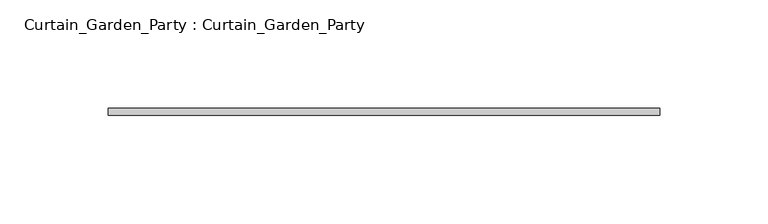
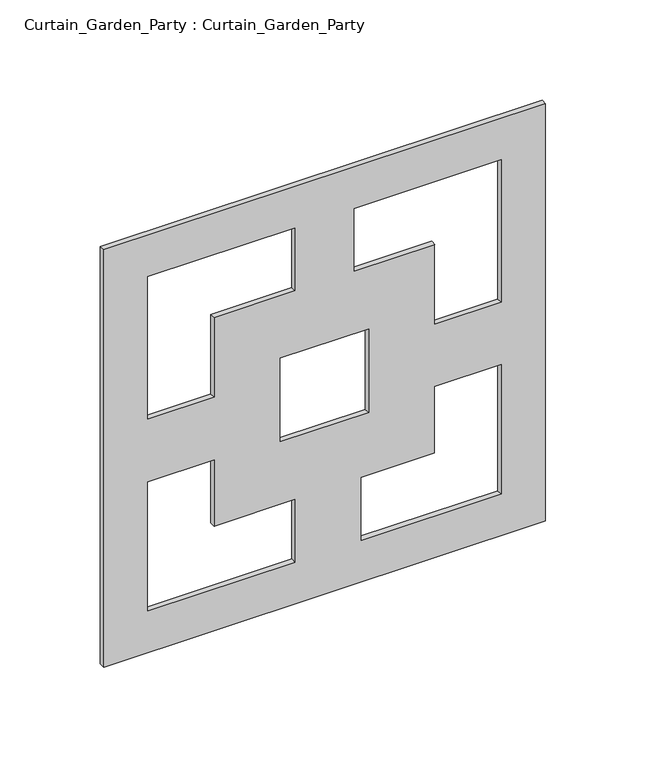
"""IFC4 building model written with IfcOpenShell, lengths in millimetres: plate geometry, Curtain_Garden_Party : Curtain_Garden_Party."""

import ifcopenshell
import ifcopenshell.guid

model = None  # the IFC model being written
_history = None  # IfcOwnerHistory: only IFC2X3 demands one
_inside = {}  # id of a spatial element -> (the spatial element, [elements in it])
_under = {}  # id of a project, library or spatial element -> (it, [spatial elements below it])
_declared = {}  # id of a project -> (the project, [libraries it declares])
_typed = {}  # id of a type object -> (the type object, [elements of that type])
_made_of = {}  # id of a material, layer set ... -> (it, [elements and type objects made of it])


def new_model(schema):
    """Start an empty IFC model of exactly this schema.

    Asked for "IFC4X3", IfcOpenShell would pick the latest addendum, in which some entities
    have other attributes; the version numbers below select the first issue.
    IFC2X3 requires an IfcOwnerHistory on every rooted entity: one is made here for all.
    """
    global model, _history
    if schema == "IFC4X3":
        model = ifcopenshell.file(schema_version=(4, 3, 0, 0))
    else:
        model = ifcopenshell.file(schema=schema)
    _inside.clear()
    _under.clear()
    _declared.clear()
    _typed.clear()
    _made_of.clear()
    _history = None
    if model.schema == "IFC2X3":
        org = make("IfcOrganization", Name="unknown")
        user = make(
            "IfcPersonAndOrganization",
            ThePerson=make("IfcPerson", FamilyName="unknown"),
            TheOrganization=org,
        )
        app = make(
            "IfcApplication",
            ApplicationDeveloper=org,
            Version="unknown",
            ApplicationFullName="unknown",
            ApplicationIdentifier="unknown",
        )
        _history = make(
            "IfcOwnerHistory",
            OwningUser=user,
            OwningApplication=app,
            ChangeAction="ADDED",
            CreationDate=0,
        )
    return model


def make(cls, **values):
    """One entity of the class cls with the attributes given. An attribute that is None is left unset."""
    return model.create_entity(
        cls, **{name: value for name, value in values.items() if value is not None}
    )


def rooted(cls, **values):
    """An entity with a GlobalId (a new one), such as an element, a storey or a relation."""
    return make(cls, GlobalId=ifcopenshell.guid.new(), OwnerHistory=_history, **values)


def si_unit(unit_type, name, prefix=None):
    """IfcSIUnit, for example si_unit("LENGTHUNIT", "METRE", prefix="MILLI")."""
    return make("IfcSIUnit", UnitType=unit_type, Prefix=prefix, Name=name)


def assignment(units):
    """IfcUnitAssignment: the units of a project."""
    return None if units is None else make("IfcUnitAssignment", Units=units)


def point(xyz):
    """IfcCartesianPoint."""
    return None if xyz is None else make("IfcCartesianPoint", Coordinates=xyz)


def direction(xyz):
    """IfcDirection."""
    return None if xyz is None else make("IfcDirection", DirectionRatios=xyz)


def frame(location, z_axis=None, x_axis=None):
    """IfcAxis2Placement3D, a coordinate frame: its origin and axes. An axis left out is left unset."""
    return make(
        "IfcAxis2Placement3D",
        Location=point(location),
        Axis=direction(z_axis),
        RefDirection=direction(x_axis),
    )


def origin():
    """The frame at (0, 0, 0) with its axes left unset."""
    return frame((0.0, 0.0, 0.0))


def place(relative_to, where):
    """IfcLocalPlacement: puts the frame where relative to a parent placement (None: the world)."""
    return make(
        "IfcLocalPlacement", PlacementRelTo=relative_to, RelativePlacement=where
    )


def context(
    kind, dimensions, precision=None, world=None, true_north=None, identifier=None
):
    """IfcGeometricRepresentationContext, for example the 3D "Model" context."""
    return make(
        "IfcGeometricRepresentationContext",
        ContextIdentifier=identifier,
        ContextType=kind,
        CoordinateSpaceDimension=dimensions,
        Precision=precision,
        WorldCoordinateSystem=world,
        TrueNorth=true_north,
    )


def project(units=None, contexts=None):
    """IfcProject with its units and contexts."""
    return rooted(
        "IfcProject",
        Name="project",
        RepresentationContexts=contexts,
        UnitsInContext=assignment(units),
    )


def spatial(cls, under=None, at=None, **own):
    """A site, building, storey or space (cls), placed at a placement, below another one or the project."""
    s = rooted(cls, ObjectPlacement=at, **own)
    if under is not None:
        _under.setdefault(under.id(), (under, []))[1].append(s)
    return s


def polyline(points):
    """IfcPolyline through the points."""
    return make("IfcPolyline", Points=[point(p) for p in points])


def outline(outer, holes=None, kind="AREA"):
    """IfcArbitraryClosedProfileDef: a profile drawn as a closed curve; with holes, ...WithVoids."""
    if holes is None:
        return make("IfcArbitraryClosedProfileDef", ProfileType=kind, OuterCurve=outer)
    return make(
        "IfcArbitraryProfileDefWithVoids",
        ProfileType=kind,
        OuterCurve=outer,
        InnerCurves=holes,
    )


def extrude(swept, where, along, depth):
    """IfcExtrudedAreaSolid: the profile swept, set in the frame where, extruded along a direction by depth."""
    return make(
        "IfcExtrudedAreaSolid",
        SweptArea=swept,
        Position=where,
        ExtrudedDirection=direction(along),
        Depth=depth,
    )


def shape(context_of_items, identifier, shape_type, items):
    """IfcShapeRepresentation: the items that make up one representation, for example the "Body"."""
    return make(
        "IfcShapeRepresentation",
        ContextOfItems=context_of_items,
        RepresentationIdentifier=identifier,
        RepresentationType=shape_type,
        Items=items,
    )


def source(mapping_origin, context_of_items, identifier, shape_type, items):
    """IfcRepresentationMap: a shape defined once, which mapped items show again and again."""
    return make(
        "IfcRepresentationMap",
        MappingOrigin=mapping_origin,
        MappedRepresentation=shape(context_of_items, identifier, shape_type, items),
    )


def transform(
    local_origin,
    x_axis=None,
    y_axis=None,
    z_axis=None,
    scale=None,
    scale2=None,
    scale3=None,
    uniform=True,
):
    """IfcCartesianTransformationOperator3D, or its non-uniform kind. x_axis, y_axis, z_axis: its Axis1, 2, 3."""
    if uniform:
        return make(
            "IfcCartesianTransformationOperator3D",
            Axis1=direction(x_axis),
            Axis2=direction(y_axis),
            LocalOrigin=point(local_origin),
            Scale=scale,
            Axis3=direction(z_axis),
        )
    return make(
        "IfcCartesianTransformationOperator3DnonUniform",
        Axis1=direction(x_axis),
        Axis2=direction(y_axis),
        LocalOrigin=point(local_origin),
        Scale=scale,
        Axis3=direction(z_axis),
        Scale2=scale2,
        Scale3=scale3,
    )


def mapped(mapping_source, mapping_target):
    """IfcMappedItem: shows the shape of a source again, moved by a transform."""
    return make(
        "IfcMappedItem", MappingSource=mapping_source, MappingTarget=mapping_target
    )


def made_of(thing, what):
    """Note that an element or type object is made of a material, layer set ...; save() writes the relation."""
    if what is not None:
        _made_of.setdefault(what.id(), (what, []))[1].append(thing)
    return thing


def element(
    cls,
    number,
    at=None,
    inside=None,
    cuts=None,
    type_object=None,
    material=None,
    context=None,
    identifier="Body",
    shape_type=None,
    held_by="IfcProductDefinitionShape",
    body=None,
    shapes=None,
    **own,
):
    """One element of the class cls, such as IfcWall. Its Tag is "e" and its number.

    at: its placement. inside: the storey or other place that contains it. cuts: it is an
    opening in that element (IfcRelVoidsElement). A single representation is given by context,
    identifier, shape_type and body (its items); several are given by shapes. held_by: the class
    of the entity that holds the representations. save() writes the other relations.
    """
    e = rooted(cls, Tag="e%d" % number, ObjectPlacement=at, **own)
    if body is not None:
        shapes = [shape(context, identifier, shape_type, body)]
    if shapes is not None:
        e.Representation = make(held_by, Representations=shapes)
    if inside is not None:
        _inside.setdefault(inside.id(), (inside, []))[1].append(e)
    if cuts is not None:
        rooted(
            "IfcRelVoidsElement", RelatingBuildingElement=cuts, RelatedOpeningElement=e
        )
    if type_object is not None:
        _typed.setdefault(type_object.id(), (type_object, []))[1].append(e)
    return made_of(e, material)


def aggregate(whole, parts):
    """IfcRelAggregates: a whole, such as a stair, and the parts it consists of."""
    return rooted("IfcRelAggregates", RelatingObject=whole, RelatedObjects=parts)


def save(model, path):
    """Write the relations noted so far, then the file.

    IfcRelAggregates (storeys below a building ...), IfcRelContainedInSpatialStructure (elements
    in a storey), IfcRelDefinesByType, IfcRelAssociatesMaterial and IfcRelDeclares: one each for
    every whole, place, type object, material and project.
    """
    for whole, parts in _under.values():
        aggregate(whole, parts)
    for where, things in _inside.values():
        rooted(
            "IfcRelContainedInSpatialStructure",
            RelatedElements=things,
            RelatingStructure=where,
        )
    for kind, things in _typed.values():
        rooted("IfcRelDefinesByType", RelatedObjects=things, RelatingType=kind)
    for what, things in _made_of.values():
        rooted("IfcRelAssociatesMaterial", RelatedObjects=things, RelatingMaterial=what)
    for by, libraries in _declared.values():
        rooted("IfcRelDeclares", RelatingContext=by, RelatedDefinitions=libraries)
    model.write(path)


def curtain_garden_party_curtain_garden_party_a87d6bce(model_context):
    return source(origin(), model_context, "Body", "SweptSolid", [
        extrude(outline(polyline([(254.0, 127.0), (254.0, -127.0), (0.0, -127.0), (0.0, 127.0), (254.0, 127.0)]), holes=[polyline([(228.6, -17.05), (190.5, -17.05), (190.5, -63.5), (142.05, -63.5), (142.05, -101.6), (228.6, -101.6), (228.6, -17.05)]), polyline([(152.4, 25.4), (101.6, 25.4), (101.6, -25.4), (152.4, -25.4), (152.4, 25.4)]), polyline([(190.5, 17.05), (228.6, 17.05), (228.6, 101.6), (142.05, 101.6), (142.05, 63.5), (190.5, 63.5), (190.5, 17.05)]), polyline([(25.4, -17.05), (25.4, -101.6), (103.95, -101.6), (103.95, -63.5), (63.5, -63.5), (63.5, -17.05), (25.4, -17.05)]), polyline([(63.5, 21.05), (63.5, 63.5), (103.95, 63.5), (103.95, 101.6), (25.4, 101.6), (25.4, 21.05), (63.5, 21.05)])]), frame((0.0, -3.175, 0.0), z_axis=(0.0, 1.0, 0.0), x_axis=(0.0, 0.0, 1.0)), (0.0, 0.0, 1.0), 3.175),
    ])


if __name__ == "__main__":
    model = new_model("IFC4")
    model_context = context("Model", 3, world=origin())
    ifc_project = project(units=[si_unit("LENGTHUNIT", "METRE", prefix="MILLI")], contexts=[model_context])
    site = spatial("IfcSite", under=ifc_project)
    building = spatial("IfcBuilding", under=site)
    placement = place(None, origin())
    curtain_garden_party_curtain_garden_party_shape = curtain_garden_party_curtain_garden_party_a87d6bce(model_context)
    element("IfcPlate", 1, ObjectType="Curtain_Garden_Party : Curtain_Garden_Party", at=placement, inside=building, context=model_context, shape_type="MappedRepresentation", body=[
        mapped(curtain_garden_party_curtain_garden_party_shape, transform((0.0, 0.0, 0.0), x_axis=(1.0, 0.0, 0.0), y_axis=(0.0, 1.0, 0.0), z_axis=(0.0, 0.0, 1.0))),
    ])
    save(model, "model.ifc")
